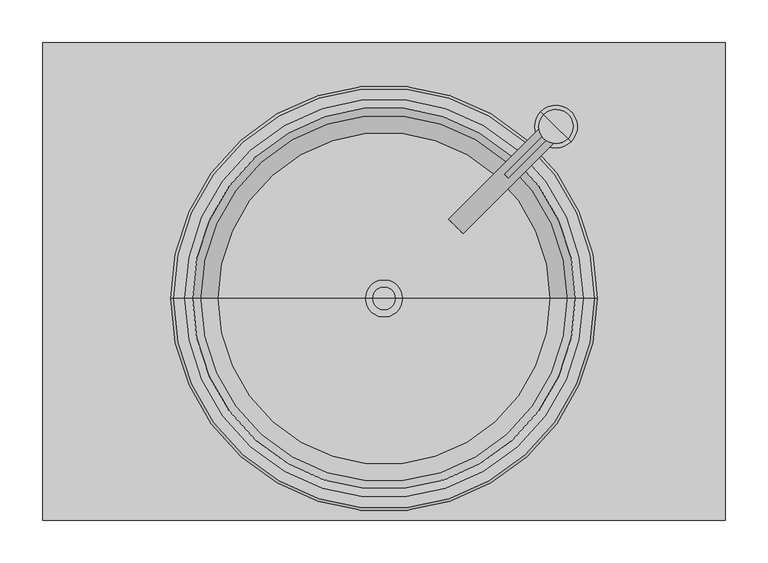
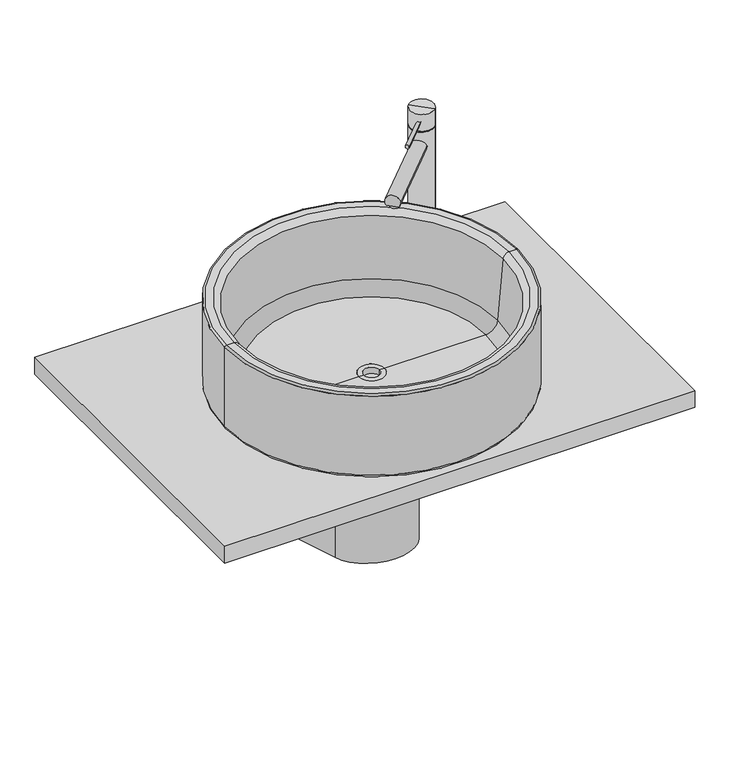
"""IFC4 building model written with IfcOpenShell, lengths in millimetres: flow terminal geometry, Lavabo moderne : Lavabo moderne 2."""

from ifc_helpers import new_model, si_unit, point, frame, frame_2d, origin, place, context, project, spatial, polyline, circle_curve, ellipse_curve, trimmed, segment, composite_curve, outline, extrude, source, transform, mapped, element, save
from ifc_brep_helpers import plane_surface, cylinder_surface, revolved_surface, advanced_brep


def flow_terminal_081ecb10(model_context):
    return source(origin(), model_context, "Body", "SolidModel", [
        advanced_brep(
        [(117.6871066, -224.1333228, 240.6419785), (100.7165438, -207.16276, 240.6419785), (102.5610803, -209.0072965, 233.1719709), (115.8425701, -222.2887863, 233.1719709), (217.8900178, -89.989286, 240.6419785), (234.8605806, -106.9598487, 240.6419785), (133.5202396, -204.6111168, 233.1719709), (120.2387498, -191.329627, 233.1719709)],
        [
            (0, 1, circle_curve(frame((109.2018252, -215.6480414, 240.6419785), z_axis=(-0.707106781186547, -0.707106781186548, 0.0), x_axis=(0.7071067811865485, -0.7071067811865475, 0.0)), 12.0)),
            (1, 2, circle_curve(frame((109.2018252, -215.6480414, 240.6419785), z_axis=(-0.707106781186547, -0.707106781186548, 0.0), x_axis=(0.7071067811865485, -0.7071067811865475, 0.0)), 12.0)),
            (2, 3),
            (3, 0, circle_curve(frame((109.2018252, -215.6480414, 240.6419785), z_axis=(-0.707106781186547, -0.707106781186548, 0.0), x_axis=(0.7071067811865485, -0.7071067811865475, 0.0)), 12.0)),
            (4, 5, circle_curve(frame((226.3752992, -98.4745674, 240.6419785), z_axis=(0.707106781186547, 0.707106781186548, 0.0), x_axis=(0.7071067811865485, -0.7071067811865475, 0.0)), 12.0)),
            (5, 4, circle_curve(frame((226.3752992, -98.4745674, 240.6419785), z_axis=(0.707106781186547, 0.707106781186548, 0.0), x_axis=(0.7071067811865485, -0.7071067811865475, 0.0)), 12.0)),
            (5, 0),
            (3, 6),
            (6, 7, circle_curve(frame((126.8794947, -197.9703719, 240.6419785), z_axis=(0.707106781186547, 0.707106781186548, 0.0), x_axis=(0.7071067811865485, -0.7071067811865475, 0.0)), 12.0)),
            (7, 2),
            (1, 4),
            (7, 6),
        ],
        [
            plane_surface(frame((117.6871066, -224.1333228, 240.6419785), z_axis=(-0.707106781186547, -0.707106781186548, 0.0), x_axis=(0.0, 0.0, 1.0))),
            plane_surface(frame((234.8605806, -106.9598487, 240.6419785), z_axis=(0.707106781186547, 0.707106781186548, 0.0), x_axis=(0.0, 0.0, -1.0))),
            cylinder_surface(frame((226.3752992, -98.4745674, 240.6419785), z_axis=(-0.7071067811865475, -0.7071067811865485, 0.0), x_axis=(0.7071067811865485, -0.7071067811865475, 0.0)), 12.0),
            plane_surface(frame((98.3017966, -204.7480128, 233.1719709), z_axis=(0.0, 0.0, -1.0), x_axis=(0.707106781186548, -0.707106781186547, 0.0))),
            plane_surface(frame((115.9794661, -187.0703433, 233.1719709), z_axis=(-0.707106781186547, -0.707106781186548, 0.0), x_axis=(0.707106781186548, -0.707106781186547, 0.0))),
        ],
        [
            (0, [[1, 2, 3, 4]]),
            (1, [[5, 6]]),
            (2, [[-6, 7, -4, 8, 9, 10, -2, 11]]),
            (2, [[-1, -7, -5, -11]]),
            (3, [[12, -8, -3, -10]]),
            (4, [[-12, -9]]),
        ],
    ),
        extrude(outline(composite_curve([segment(trimmed(circle_curve(frame_2d((0.0, -3.0)), 3.0), [point((0.0, -6.0))], [point((0.0, 0.0))], False, "CARTESIAN"), True, "CONTINUOUS"), segment(trimmed(circle_curve(frame_2d((0.0, -3.0)), 3.0), [point((0.0, 0.0))], [point((0.0, -6.0))], False, "CARTESIAN"), True, "CONTINUOUS")], self_intersect=False)), frame((170.4834109, -158.6090964, 283.2676852), z_axis=(0.707106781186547, 0.707106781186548, 0.0), x_axis=(0.0, 0.0, 1.0)), (0.0, 0.0, 1.0), 82.0430665),
        advanced_brep(
        [(226.3752992, -98.4745674, 0.0), (208.6976297, -80.7968978, 0.0), (244.0529687, -116.1522369, 0.0), (240.5174348, -112.616703, 300.0), (212.2331636, -84.3324317, 300.0), (226.3752992, -98.4745674, 300.0), (240.5174348, -112.616703, 270.0), (212.2331636, -84.3324317, 270.0), (239.1032213, -111.2024894, 270.0), (213.6473772, -85.7466453, 270.0), (239.1032213, -111.2024894, 268.0), (213.6473772, -85.7466453, 268.0), (240.5174348, -112.616703, 268.0), (212.2331636, -84.3324317, 268.0), (240.5174348, -112.616703, 4.0), (212.2331636, -84.3324317, 4.0), (244.0529687, -116.1522369, 4.0), (208.6976297, -80.7968978, 4.0)],
        [
            (0, 1),
            (1, 2, circle_curve(frame((226.3752992, -98.4745674, 0.0), z_axis=(0.0, 0.0, -1.0), x_axis=(-0.7071067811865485, 0.7071067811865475, 0.0)), 25.0)),
            (2, 0),
            (2, 1, circle_curve(frame((226.3752992, -98.4745674, 0.0), z_axis=(0.0, 0.0, -1.0), x_axis=(-0.7071067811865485, 0.7071067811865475, 0.0)), 25.0)),
            (3, 4, circle_curve(frame((226.3752992, -98.4745674, 300.0), z_axis=(0.0, 0.0, 1.0), x_axis=(-0.7071067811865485, 0.7071067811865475, 0.0)), 20.0)),
            (4, 5),
            (5, 3),
            (4, 3, circle_curve(frame((226.3752992, -98.4745674, 300.0), z_axis=(0.0, 0.0, 1.0), x_axis=(-0.7071067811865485, 0.7071067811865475, 0.0)), 20.0)),
            (3, 6),
            (6, 7, circle_curve(frame((226.3752992, -98.4745674, 270.0), z_axis=(0.0, 0.0, 1.0), x_axis=(-0.7071067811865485, 0.7071067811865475, 0.0)), 20.0)),
            (7, 4),
            (7, 6, circle_curve(frame((226.3752992, -98.4745674, 270.0), z_axis=(0.0, 0.0, 1.0), x_axis=(-0.7071067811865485, 0.7071067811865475, 0.0)), 20.0)),
            (6, 8),
            (8, 9, circle_curve(frame((226.3752992, -98.4745674, 270.0), z_axis=(0.0, 0.0, 1.0), x_axis=(-0.7071067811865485, 0.7071067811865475, 0.0)), 18.0)),
            (9, 7),
            (9, 8, circle_curve(frame((226.3752992, -98.4745674, 270.0), z_axis=(0.0, 0.0, 1.0), x_axis=(-0.7071067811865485, 0.7071067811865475, 0.0)), 18.0)),
            (8, 10),
            (10, 11, circle_curve(frame((226.3752992, -98.4745674, 268.0), z_axis=(0.0, 0.0, 1.0), x_axis=(-0.7071067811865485, 0.7071067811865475, 0.0)), 18.0)),
            (11, 9),
            (11, 10, circle_curve(frame((226.3752992, -98.4745674, 268.0), z_axis=(0.0, 0.0, 1.0), x_axis=(-0.7071067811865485, 0.7071067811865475, 0.0)), 18.0)),
            (10, 12),
            (12, 13, circle_curve(frame((226.3752992, -98.4745674, 268.0), z_axis=(0.0, 0.0, 1.0), x_axis=(-0.7071067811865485, 0.7071067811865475, 0.0)), 20.0)),
            (13, 11),
            (13, 12, circle_curve(frame((226.3752992, -98.4745674, 268.0), z_axis=(0.0, 0.0, 1.0), x_axis=(-0.7071067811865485, 0.7071067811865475, 0.0)), 20.0)),
            (12, 14),
            (14, 15, circle_curve(frame((226.3752992, -98.4745674, 4.0), z_axis=(0.0, 0.0, 1.0), x_axis=(-0.7071067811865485, 0.7071067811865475, 0.0)), 20.0)),
            (15, 13),
            (15, 14, circle_curve(frame((226.3752992, -98.4745674, 4.0), z_axis=(0.0, 0.0, 1.0), x_axis=(-0.7071067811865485, 0.7071067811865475, 0.0)), 20.0)),
            (14, 16),
            (16, 17, circle_curve(frame((226.3752992, -98.4745674, 4.0), z_axis=(0.0, 0.0, 1.0), x_axis=(-0.7071067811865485, 0.7071067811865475, 0.0)), 25.0)),
            (17, 15),
            (17, 16, circle_curve(frame((226.3752992, -98.4745674, 4.0), z_axis=(0.0, 0.0, 1.0), x_axis=(-0.7071067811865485, 0.7071067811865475, 0.0)), 25.0)),
            (1, 17),
            (16, 2),
        ],
        [
            plane_surface(frame((226.3752992, -98.4745674, 0.0), z_axis=(0.0, 0.0, -1.0), x_axis=(-0.707106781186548, 0.707106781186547, 0.0))),
            plane_surface(frame((226.3752992, -98.4745674, 300.0), z_axis=(0.0, 0.0, 1.0), x_axis=(-0.707106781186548, 0.707106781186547, 0.0))),
            cylinder_surface(frame((226.3752992, -98.4745674, -25.0), z_axis=(0.0, 0.0, -1.0), x_axis=(-0.7071067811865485, 0.7071067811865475, 0.0)), 20.0),
            plane_surface(frame((226.3752992, -98.4745674, 270.0), z_axis=(0.0, 0.0, -1.0), x_axis=(-0.707106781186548, 0.707106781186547, 0.0))),
            cylinder_surface(frame((226.3752992, -98.4745674, -25.0), z_axis=(0.0, 0.0, -1.0), x_axis=(-0.7071067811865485, 0.7071067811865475, 0.0)), 18.0),
            plane_surface(frame((226.3752992, -98.4745674, 268.0), z_axis=(0.0, 0.0, 1.0), x_axis=(-0.707106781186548, 0.707106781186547, 0.0))),
            plane_surface(frame((226.3752992, -98.4745674, 4.0), z_axis=(0.0, 0.0, 1.0), x_axis=(-0.707106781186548, 0.707106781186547, 0.0))),
            cylinder_surface(frame((226.3752992, -98.4745674, -25.0), z_axis=(0.0, 0.0, -1.0), x_axis=(-0.7071067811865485, 0.7071067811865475, 0.0)), 25.0),
        ],
        [
            (0, [[1, 2, 3]]),
            (0, [[-1, -3, 4]]),
            (1, [[5, 6, 7]]),
            (1, [[-6, 8, -7]]),
            (2, [[-5, 9, 10, 11]]),
            (2, [[-8, -11, 12, -9]]),
            (3, [[-10, 13, 14, 15]]),
            (3, [[-12, -15, 16, -13]]),
            (4, [[-14, 17, 18, 19]]),
            (4, [[-16, -19, 20, -17]]),
            (5, [[-18, 21, 22, 23]]),
            (5, [[-20, -23, 24, -21]]),
            (2, [[-22, 25, 26, 27]]),
            (2, [[-24, -27, 28, -25]]),
            (6, [[-26, 29, 30, 31]]),
            (6, [[-28, -31, 32, -29]]),
            (7, [[-2, 33, -30, 34]]),
            (7, [[-4, -34, -32, -33]]),
        ],
    ),
        advanced_brep(
        [(111.5201538, -202.0160043, 233.1719709), (122.8338623, -213.3297128, 233.1719709), (111.5201538, -202.0160043, 227.0717002), (122.8338623, -213.3297128, 227.0717002)],
        [
            (0, 1, circle_curve(frame((117.177008, -207.6728586, 233.1719709), z_axis=(0.0, 0.0, 1.0), x_axis=(0.7071067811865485, -0.7071067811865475, 0.0)), 8.0)),
            (1, 0, circle_curve(frame((117.177008, -207.6728586, 233.1719709), z_axis=(0.0, 0.0, 1.0), x_axis=(0.7071067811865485, -0.7071067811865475, 0.0)), 8.0)),
            (2, 3, circle_curve(frame((117.177008, -207.6728586, 227.0717002), z_axis=(0.0, 0.0, -1.0), x_axis=(0.7071067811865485, -0.7071067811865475, 0.0)), 8.0)),
            (3, 2, circle_curve(frame((117.177008, -207.6728586, 227.0717002), z_axis=(0.0, 0.0, -1.0), x_axis=(0.7071067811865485, -0.7071067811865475, 0.0)), 8.0)),
            (0, 2),
            (3, 1),
        ],
        [
            plane_surface(frame((122.8338623, -213.3297128, 233.1719709), z_axis=(0.0, 0.0, 1.0), x_axis=(0.707106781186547, 0.707106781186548, 0.0))),
            plane_surface(frame((122.8338623, -213.3297128, 227.0717002), z_axis=(0.0, 0.0, -1.0), x_axis=(-0.707106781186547, -0.707106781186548, 0.0))),
            cylinder_surface(frame((117.177008, -207.6728586, 227.0717002), z_axis=(0.0, 0.0, 1.0), x_axis=(0.7071067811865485, -0.7071067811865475, 0.0)), 8.0),
        ],
        [
            (0, [[1, 2]]),
            (1, [[3, 4]]),
            (2, [[-1, 5, -4, 6]]),
            (2, [[-2, -6, -3, -5]]),
        ],
    ),
        advanced_brep(
        [(93.9365302, -311.2708876, -30.0), (144.717665, 0.0, -30.0), (-95.0179319, 0.0, -30.0), (-44.2367971, -311.2708876, -30.0), (93.9365302, -311.2708876, -286.6762322), (144.717665, 0.0, -335.8242671), (-95.0179319, 0.0, -335.8242671), (-44.2367971, -311.2708876, -286.6762322)],
        [
            (0, 1),
            (1, 2),
            (2, 3),
            (3, 0, circle_curve(frame((24.8498666, -300.0, -30.0), z_axis=(0.0, 0.0, 1.0), x_axis=(1.0, 0.0, 0.0)), 70.0)),
            (0, 4),
            (4, 5),
            (5, 1),
            (5, 6),
            (6, 2),
            (6, 7),
            (7, 3),
            (7, 4, ellipse_curve(frame((24.8498666, -300.0, -288.4558461), z_axis=(0.0, 0.1559625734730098, 0.9877629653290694), x_axis=(0.0, -0.9877629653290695, 0.1559625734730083)), 70.8672044, 70.0)),
        ],
        [
            plane_surface(frame((154.8498666, 62.10691, -30.0), z_axis=(0.0, 0.0, 1.0), x_axis=(0.16101267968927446, 0.9869523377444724, 0.0))),
            plane_surface(frame((93.9365302, -311.2708876, -30.0), z_axis=(0.9869523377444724, -0.16101267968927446, 0.0), x_axis=(0.0, 0.0, -1.0))),
            plane_surface(frame((144.717665, 0.0, -30.0), z_axis=(0.0, 1.0, 0.0), x_axis=(0.0, 0.0, -1.0))),
            plane_surface(frame((-95.0179319, 0.0, -30.0), z_axis=(-0.9869523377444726, -0.1610126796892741, 0.0), x_axis=(0.0, 0.0, -1.0))),
            cylinder_surface(frame((24.8498666, -300.0, -335.8242671), z_axis=(0.0, 0.0, 1.0), x_axis=(1.0, 0.0, 0.0)), 70.0),
            plane_surface(frame((189.9645656, 0.0, -335.8242671), z_axis=(0.0, -0.1559625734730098, -0.9877629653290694), x_axis=(-1.0, 0.0, 0.0))),
        ],
        [
            (0, [[1, 2, 3, 4]]),
            (1, [[-1, 5, 6, 7]]),
            (2, [[-2, -7, 8, 9]]),
            (3, [[-3, -9, 10, 11]]),
            (4, [[-4, -11, 12, -5]]),
            (5, [[-6, -12, -10, -8]]),
        ],
    ),
        advanced_brep(
        [(274.8498666, -300.0, 5.0), (-225.1501334, -300.0, 5.0), (-220.1501334, -300.0, 0.0), (269.8498666, -300.0, 0.0), (274.8498666, -300.0, 147.0), (-225.1501334, -300.0, 147.0), (271.8498666, -300.0, 150.0), (-222.1501334, -300.0, 150.0), (259.0131783, -300.0, 150.0), (-209.3134452, -300.0, 150.0), (249.0512313, -300.0, 140.8715574), (-199.3514982, -300.0, 140.8715574), (239.6361675, -300.0, 33.2568851), (-189.9364343, -300.0, 33.2568851), (219.7122735, -300.0, 15.0), (-170.0125404, -300.0, 15.0), (46.8498666, -300.0, 15.0), (2.8498666, -300.0, 15.0), (46.8498666, -300.0, 13.464751), (2.8498666, -300.0, 13.464751), (41.8498666, -300.0, 13.464751), (7.8498666, -300.0, 13.464751), (41.8498666, -300.0, 0.0), (7.8498666, -300.0, 0.0)],
        [
            (0, 1, circle_curve(frame((24.8498666, -300.0, 5.0), z_axis=(0.0, 0.0, -1.0), x_axis=(-1.0, 0.0, 0.0)), 250.0)),
            (1, 2, circle_curve(frame((-220.1501334, -300.0, 5.0), z_axis=(0.0, -1.0, 0.0), x_axis=(-1.0, 0.0, 0.0)), 5.0)),
            (2, 3, circle_curve(frame((24.8498666, -300.0, 0.0), z_axis=(0.0, 0.0, 1.0), x_axis=(-1.0, 0.0, 0.0)), 245.0)),
            (3, 0, circle_curve(frame((269.8498666, -300.0, 5.0), z_axis=(0.0, -1.0, 0.0), x_axis=(1.0, 0.0, 0.0)), 5.0)),
            (1, 0, circle_curve(frame((24.8498666, -300.0, 5.0), z_axis=(0.0, 0.0, -1.0), x_axis=(-1.0, 0.0, 0.0)), 250.0)),
            (3, 2, circle_curve(frame((24.8498666, -300.0, 0.0), z_axis=(0.0, 0.0, 1.0), x_axis=(-1.0, 0.0, 0.0)), 245.0)),
            (4, 5, circle_curve(frame((24.8498666, -300.0, 147.0), z_axis=(0.0, 0.0, -1.0), x_axis=(-1.0, 0.0, 0.0)), 250.0)),
            (5, 1),
            (0, 4),
            (5, 4, circle_curve(frame((24.8498666, -300.0, 147.0), z_axis=(0.0, 0.0, -1.0), x_axis=(-1.0, 0.0, 0.0)), 250.0)),
            (6, 7, circle_curve(frame((24.8498666, -300.0, 150.0), z_axis=(0.0, 0.0, -1.0), x_axis=(-1.0, 0.0, 0.0)), 247.0)),
            (7, 5, circle_curve(frame((-222.1501334, -300.0, 147.0), z_axis=(0.0, -1.0, 0.0), x_axis=(-1.0, 0.0, 0.0)), 3.0)),
            (4, 6, circle_curve(frame((271.8498666, -300.0, 147.0), z_axis=(0.0, -1.0, 0.0), x_axis=(1.0, 0.0, 0.0)), 3.0)),
            (7, 6, circle_curve(frame((24.8498666, -300.0, 150.0), z_axis=(0.0, 0.0, -1.0), x_axis=(-1.0, 0.0, 0.0)), 247.0)),
            (8, 9, circle_curve(frame((24.8498666, -300.0, 150.0), z_axis=(0.0, 0.0, -1.0), x_axis=(-1.0, 0.0, 0.0)), 234.1633117)),
            (9, 7),
            (6, 8),
            (9, 8, circle_curve(frame((24.8498666, -300.0, 150.0), z_axis=(0.0, 0.0, -1.0), x_axis=(-1.0, 0.0, 0.0)), 234.1633117)),
            (10, 11, circle_curve(frame((24.8498666, -300.0, 140.8715574), z_axis=(0.0, 0.0, -1.0), x_axis=(-1.0, 0.0, 0.0)), 224.2013648)),
            (11, 9, circle_curve(frame((-209.3134452, -300.0, 140.0), z_axis=(0.0, -1.0, 0.0), x_axis=(-1.0, 0.0, 0.0)), 10.0)),
            (8, 10, circle_curve(frame((259.0131783, -300.0, 140.0), z_axis=(0.0, -1.0, 0.0), x_axis=(1.0, 0.0, 0.0)), 10.0)),
            (11, 10, circle_curve(frame((24.8498666, -300.0, 140.8715574), z_axis=(0.0, 0.0, -1.0), x_axis=(-1.0, 0.0, 0.0)), 224.2013648)),
            (12, 13, circle_curve(frame((24.8498666, -300.0, 33.2568851), z_axis=(0.0, 0.0, -1.0), x_axis=(-1.0, 0.0, 0.0)), 214.7863009)),
            (13, 11),
            (10, 12),
            (13, 12, circle_curve(frame((24.8498666, -300.0, 33.2568851), z_axis=(0.0, 0.0, -1.0), x_axis=(-1.0, 0.0, 0.0)), 214.7863009)),
            (14, 15, circle_curve(frame((24.8498666, -300.0, 15.0), z_axis=(0.0, 0.0, -1.0), x_axis=(-1.0, 0.0, 0.0)), 194.8624069)),
            (15, 13, circle_curve(frame((-170.0125404, -300.0, 35.0), z_axis=(0.0, 1.0, 0.0), x_axis=(-1.0, 0.0, 0.0)), 20.0)),
            (12, 14, circle_curve(frame((219.7122735, -300.0, 35.0), z_axis=(0.0, 1.0, 0.0), x_axis=(1.0, 0.0, 0.0)), 20.0)),
            (15, 14, circle_curve(frame((24.8498666, -300.0, 15.0), z_axis=(0.0, 0.0, -1.0), x_axis=(-1.0, 0.0, 0.0)), 194.8624069)),
            (16, 17, circle_curve(frame((24.8498666, -300.0, 15.0), z_axis=(0.0, 0.0, -1.0), x_axis=(-1.0, 0.0, 0.0)), 22.0)),
            (17, 15),
            (14, 16),
            (17, 16, circle_curve(frame((24.8498666, -300.0, 15.0), z_axis=(0.0, 0.0, -1.0), x_axis=(-1.0, 0.0, 0.0)), 22.0)),
            (18, 19, circle_curve(frame((24.8498666, -300.0, 13.464751), z_axis=(0.0, 0.0, -1.0), x_axis=(-1.0, 0.0, 0.0)), 22.0)),
            (19, 17),
            (16, 18),
            (19, 18, circle_curve(frame((24.8498666, -300.0, 13.464751), z_axis=(0.0, 0.0, -1.0), x_axis=(-1.0, 0.0, 0.0)), 22.0)),
            (20, 21, circle_curve(frame((24.8498666, -300.0, 13.464751), z_axis=(0.0, 0.0, -1.0), x_axis=(-1.0, 0.0, 0.0)), 17.0)),
            (21, 19),
            (18, 20),
            (21, 20, circle_curve(frame((24.8498666, -300.0, 13.464751), z_axis=(0.0, 0.0, -1.0), x_axis=(-1.0, 0.0, 0.0)), 17.0)),
            (22, 23, circle_curve(frame((24.8498666, -300.0, 0.0), z_axis=(0.0, 0.0, -1.0), x_axis=(-1.0, 0.0, 0.0)), 17.0)),
            (23, 21),
            (20, 22),
            (23, 22, circle_curve(frame((24.8498666, -300.0, 0.0), z_axis=(0.0, 0.0, -1.0), x_axis=(-1.0, 0.0, 0.0)), 17.0)),
            (2, 23),
            (22, 3),
        ],
        [
            revolved_surface(trimmed(ellipse_curve(frame((-220.1501334, -300.0, 5.0), z_axis=(0.0, 1.0, 0.0), x_axis=(-1.0, 0.0, 0.0)), 5.0, 5.0), [point((-220.1501334, -300.0, 0.0))], [point((-225.1501334, -300.0, 5.0))], True, "CARTESIAN"), (24.8498666, -300.0, -50.0), (0.0, 0.0, 1.0)),
            cylinder_surface(frame((24.8498666, -300.0, -50.0), z_axis=(0.0, 0.0, 1.0), x_axis=(-1.0, 0.0, 0.0)), 250.0),
            revolved_surface(trimmed(ellipse_curve(frame((-222.1501334, -300.0, 147.0), z_axis=(0.0, 1.0, 0.0), x_axis=(-1.0, 0.0, 0.0)), 3.0, 3.0), [point((-225.1501334, -300.0, 147.0))], [point((-222.1501334, -300.0, 150.0))], True, "CARTESIAN"), (24.8498666, -300.0, -50.0), (0.0, 0.0, 1.0)),
            plane_surface(frame((24.8498666, -300.0, 150.0), z_axis=(0.0, 0.0, 1.0), x_axis=(-1.0, 0.0, 0.0))),
            revolved_surface(trimmed(ellipse_curve(frame((-209.3134452, -300.0, 140.0), z_axis=(0.0, 1.0, 0.0), x_axis=(-1.0, 0.0, 0.0)), 10.0, 10.0), [point((-209.3134452, -300.0, 150.0))], [point((-199.3514982, -300.0, 140.8715574))], True, "CARTESIAN"), (24.8498666, -300.0, -50.0), (0.0, 0.0, 1.0)),
            revolved_surface(polyline([(-199.3514982, -300.0, 140.8715574), (-189.9364343, -300.0, 33.2568851)]), (24.8498666, -300.0, -50.0), (0.0, 0.0, 1.0)),
            revolved_surface(trimmed(ellipse_curve(frame((-170.0125404, -300.0, 35.0), z_axis=(0.0, -1.0, 0.0), x_axis=(-1.0, 0.0, 0.0)), 20.0, 20.0), [point((-189.9364343, -300.0, 33.2568851))], [point((-170.0125404, -300.0, 15.0))], True, "CARTESIAN"), (24.8498666, -300.0, -50.0), (0.0, 0.0, 1.0)),
            plane_surface(frame((24.8498666, -300.0, 15.0), z_axis=(0.0, 0.0, 1.0), x_axis=(-1.0, 0.0, 0.0))),
            revolved_surface(polyline([(2.8498665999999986, -300.0, 15.0), (2.8498665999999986, -300.0, 13.464751)]), (24.8498666, -300.0, -50.0), (0.0, 0.0, 1.0)),
            plane_surface(frame((24.8498666, -300.0, 13.464751), z_axis=(0.0, 0.0, 1.0), x_axis=(-1.0, 0.0, 0.0))),
            revolved_surface(polyline([(7.849866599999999, -300.0, 13.464751), (7.849866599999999, -300.0, 0.0)]), (24.8498666, -300.0, -50.0), (0.0, 0.0, 1.0)),
            plane_surface(frame((24.8498666, -300.0, 0.0), z_axis=(0.0, 0.0, -1.0), x_axis=(-1.0, 0.0, 0.0))),
        ],
        [
            (0, [[1, 2, 3, 4]]),
            (0, [[5, -4, 6, -2]]),
            (1, [[7, 8, -1, 9]]),
            (1, [[10, -9, -5, -8]]),
            (2, [[11, 12, -7, 13]]),
            (2, [[14, -13, -10, -12]]),
            (3, [[15, 16, -11, 17]]),
            (3, [[18, -17, -14, -16]]),
            (4, [[19, 20, -15, 21]]),
            (4, [[22, -21, -18, -20]]),
            (5, [[23, 24, -19, 25]]),
            (5, [[26, -25, -22, -24]]),
            (6, [[27, 28, -23, 29]]),
            (6, [[30, -29, -26, -28]]),
            (7, [[31, 32, -27, 33]]),
            (7, [[34, -33, -30, -32]]),
            (8, [[35, 36, -31, 37]]),
            (8, [[38, -37, -34, -36]]),
            (9, [[39, 40, -35, 41]]),
            (9, [[42, -41, -38, -40]]),
            (10, [[43, 44, -39, 45]]),
            (10, [[46, -45, -42, -44]]),
            (11, [[-3, 47, -43, 48]]),
            (11, [[-6, -48, -46, -47]]),
        ],
    ),
        extrude(outline(polyline([(424.8498666, 0.0), (424.8498666, -560.0), (-375.1501334, -560.0), (-375.1501334, 0.0), (424.8498666, 0.0)])), frame((0.0, 0.0, -30.0), z_axis=(0.0, 0.0, 1.0), x_axis=(1.0, 0.0, 0.0)), (0.0, 0.0, 1.0), 30.0),
        advanced_brep(
        [(38.5877729, -300.0, 15.0), (11.1119603, -300.0, 15.0), (2.8498666, -300.0, 15.0), (46.8498666, -300.0, 15.0), (38.5877729, -300.0, 3.7247134), (11.1119603, -300.0, 3.7247134), (24.8498666, -300.0, 3.7247134), (41.8498666, -300.0, 0.0), (7.8498666, -300.0, 0.0), (24.8498666, -300.0, 0.0), (41.8498666, -300.0, 13.464751), (7.8498666, -300.0, 13.464751), (46.8498666, -300.0, 13.464751), (2.8498666, -300.0, 13.464751)],
        [
            (0, 1, circle_curve(frame((24.8498666, -300.0, 15.0), z_axis=(0.0, 0.0, -1.0), x_axis=(-1.0, 0.0, 0.0)), 13.7379063)),
            (1, 2),
            (2, 3, circle_curve(frame((24.8498666, -300.0, 15.0), z_axis=(0.0, 0.0, 1.0), x_axis=(-1.0, 0.0, 0.0)), 22.0)),
            (3, 0),
            (1, 0, circle_curve(frame((24.8498666, -300.0, 15.0), z_axis=(0.0, 0.0, -1.0), x_axis=(-1.0, 0.0, 0.0)), 13.7379063)),
            (3, 2, circle_curve(frame((24.8498666, -300.0, 15.0), z_axis=(0.0, 0.0, 1.0), x_axis=(-1.0, 0.0, 0.0)), 22.0)),
            (4, 5, circle_curve(frame((24.8498666, -300.0, 3.7247134), z_axis=(0.0, 0.0, -1.0), x_axis=(-1.0, 0.0, 0.0)), 13.7379063)),
            (5, 1),
            (0, 4),
            (5, 4, circle_curve(frame((24.8498666, -300.0, 3.7247134), z_axis=(0.0, 0.0, -1.0), x_axis=(-1.0, 0.0, 0.0)), 13.7379063)),
            (6, 5),
            (4, 6),
            (7, 8, circle_curve(frame((24.8498666, -300.0, 0.0), z_axis=(0.0, 0.0, -1.0), x_axis=(-1.0, 0.0, 0.0)), 17.0)),
            (8, 9),
            (9, 7),
            (8, 7, circle_curve(frame((24.8498666, -300.0, 0.0), z_axis=(0.0, 0.0, -1.0), x_axis=(-1.0, 0.0, 0.0)), 17.0)),
            (10, 11, circle_curve(frame((24.8498666, -300.0, 13.464751), z_axis=(0.0, 0.0, -1.0), x_axis=(-1.0, 0.0, 0.0)), 17.0)),
            (11, 8),
            (7, 10),
            (11, 10, circle_curve(frame((24.8498666, -300.0, 13.464751), z_axis=(0.0, 0.0, -1.0), x_axis=(-1.0, 0.0, 0.0)), 17.0)),
            (12, 13, circle_curve(frame((24.8498666, -300.0, 13.464751), z_axis=(0.0, 0.0, -1.0), x_axis=(-1.0, 0.0, 0.0)), 22.0)),
            (13, 11),
            (10, 12),
            (13, 12, circle_curve(frame((24.8498666, -300.0, 13.464751), z_axis=(0.0, 0.0, -1.0), x_axis=(-1.0, 0.0, 0.0)), 22.0)),
            (2, 13),
            (12, 3),
        ],
        [
            plane_surface(frame((24.8498666, -300.0, 15.0), z_axis=(0.0, 0.0, 1.0), x_axis=(-1.0, 0.0, 0.0))),
            revolved_surface(polyline([(11.111960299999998, -300.0, 15.000000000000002), (11.111960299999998, -300.0, 3.7247134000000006)]), (24.8498666, -300.0, -6.9916745), (0.0, 0.0, 1.0)),
            plane_surface(frame((24.8498666, -300.0, 3.7247134), z_axis=(0.0, 0.0, 1.0), x_axis=(-1.0, 0.0, 0.0))),
            plane_surface(frame((24.8498666, -300.0, 0.0), z_axis=(0.0, 0.0, -1.0), x_axis=(-1.0, 0.0, 0.0))),
            cylinder_surface(frame((24.8498666, -300.0, -6.9916745), z_axis=(0.0, 0.0, 1.0), x_axis=(-1.0, 0.0, 0.0)), 17.0),
            plane_surface(frame((24.8498666, -300.0, 13.464751), z_axis=(0.0, 0.0, -1.0), x_axis=(-1.0, 0.0, 0.0))),
            cylinder_surface(frame((24.8498666, -300.0, -6.9916745), z_axis=(0.0, 0.0, 1.0), x_axis=(-1.0, 0.0, 0.0)), 22.0),
        ],
        [
            (0, [[1, 2, 3, 4]]),
            (0, [[5, -4, 6, -2]]),
            (1, [[7, 8, -1, 9]]),
            (1, [[10, -9, -5, -8]]),
            (2, [[11, -7, 12]]),
            (2, [[-12, -10, -11]]),
            (3, [[13, 14, 15]]),
            (3, [[16, -15, -14]]),
            (4, [[17, 18, -13, 19]]),
            (4, [[20, -19, -16, -18]]),
            (5, [[21, 22, -17, 23]]),
            (5, [[24, -23, -20, -22]]),
            (6, [[-3, 25, -21, 26]]),
            (6, [[-6, -26, -24, -25]]),
        ],
    ),
    ])


if __name__ == "__main__":
    model = new_model("IFC4")
    model_context = context("Model", 3, world=origin())
    ifc_project = project(units=[si_unit("LENGTHUNIT", "METRE", prefix="MILLI")], contexts=[model_context])
    site = spatial("IfcSite", under=ifc_project)
    building = spatial("IfcBuilding", under=site)
    placement = place(None, origin())
    flow_terminal_shape = flow_terminal_081ecb10(model_context)
    element("IfcFlowTerminal", 1, ObjectType="Lavabo moderne : Lavabo moderne 2", at=placement, inside=building, context=model_context, shape_type="MappedRepresentation", body=[
        mapped(flow_terminal_shape, transform((0.0, 0.0, 0.0), x_axis=(1.0, 0.0, 0.0), y_axis=(0.0, 1.0, 0.0), z_axis=(0.0, 0.0, 1.0))),
    ])
    save(model, "model.ifc")
